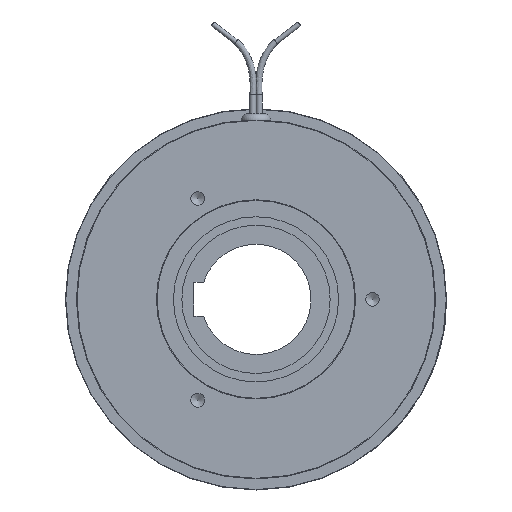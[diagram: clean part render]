
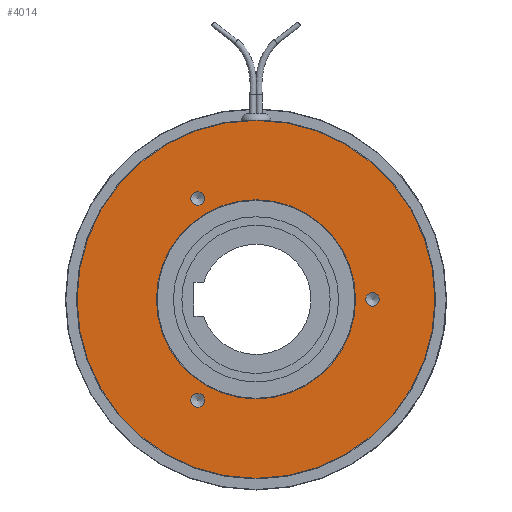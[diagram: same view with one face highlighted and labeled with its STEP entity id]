
A CAD part, left-side view. The second image highlights one B-rep face of the part: STEP entity #4014.
In plain terms, the highlighted planar face has unit normal (-1, 0, 0).
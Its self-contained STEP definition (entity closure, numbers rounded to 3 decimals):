
#368=FACE_BOUND('',#1158,.T.);
#369=FACE_BOUND('',#1159,.T.);
#370=FACE_BOUND('',#1160,.T.);
#371=FACE_BOUND('',#1161,.T.);
#561=CIRCLE('',#4390,42.25);
#562=CIRCLE('',#4391,42.25);
#563=CIRCLE('',#4393,23.5);
#566=CIRCLE('',#4396,23.5);
#567=CIRCLE('',#4398,42.25);
#568=CIRCLE('',#4399,1.621);
#569=CIRCLE('',#4400,1.621);
#570=CIRCLE('',#4401,1.621);
#571=CIRCLE('',#4402,1.621);
#572=CIRCLE('',#4403,1.621);
#573=CIRCLE('',#4404,1.621);
#912=FACE_OUTER_BOUND('',#1157,.T.);
#1157=EDGE_LOOP('',(#3146,#3147,#3148));
#1158=EDGE_LOOP('',(#3149,#3150));
#1159=EDGE_LOOP('',(#3151,#3152));
#1160=EDGE_LOOP('',(#3153,#3154));
#1161=EDGE_LOOP('',(#3155,#3156));
#1831=VERTEX_POINT('',#6822);
#1832=VERTEX_POINT('',#6824);
#1833=VERTEX_POINT('',#6826);
#1837=VERTEX_POINT('',#6853);
#1838=VERTEX_POINT('',#6854);
#1841=VERTEX_POINT('',#6864);
#1842=VERTEX_POINT('',#6865);
#1843=VERTEX_POINT('',#6868);
#1844=VERTEX_POINT('',#6869);
#1845=VERTEX_POINT('',#6872);
#1846=VERTEX_POINT('',#6873);
#2322=EDGE_CURVE('',#1832,#1831,#561,.T.);
#2323=EDGE_CURVE('',#1833,#1832,#562,.T.);
#2328=EDGE_CURVE('',#1837,#1838,#563,.T.);
#2332=EDGE_CURVE('',#1838,#1837,#566,.T.);
#2333=EDGE_CURVE('',#1831,#1833,#567,.T.);
#2334=EDGE_CURVE('',#1841,#1842,#568,.T.);
#2335=EDGE_CURVE('',#1842,#1841,#569,.T.);
#2336=EDGE_CURVE('',#1843,#1844,#570,.T.);
#2337=EDGE_CURVE('',#1844,#1843,#571,.T.);
#2338=EDGE_CURVE('',#1845,#1846,#572,.T.);
#2339=EDGE_CURVE('',#1846,#1845,#573,.T.);
#3146=ORIENTED_EDGE('',*,*,#2322,.T.);
#3147=ORIENTED_EDGE('',*,*,#2333,.T.);
#3148=ORIENTED_EDGE('',*,*,#2323,.T.);
#3149=ORIENTED_EDGE('',*,*,#2334,.T.);
#3150=ORIENTED_EDGE('',*,*,#2335,.T.);
#3151=ORIENTED_EDGE('',*,*,#2336,.T.);
#3152=ORIENTED_EDGE('',*,*,#2337,.T.);
#3153=ORIENTED_EDGE('',*,*,#2338,.T.);
#3154=ORIENTED_EDGE('',*,*,#2339,.T.);
#3155=ORIENTED_EDGE('',*,*,#2328,.F.);
#3156=ORIENTED_EDGE('',*,*,#2332,.F.);
#3899=PLANE('',#4397);
#4014=ADVANCED_FACE('',(#912,#368,#369,#370,#371),#3899,.T.);
#4390=AXIS2_PLACEMENT_3D('',#6825,#5313,#5314);
#4391=AXIS2_PLACEMENT_3D('',#6827,#5315,#5316);
#4393=AXIS2_PLACEMENT_3D('',#6855,#5322,#5323);
#4396=AXIS2_PLACEMENT_3D('',#6861,#5329,#5330);
#4397=AXIS2_PLACEMENT_3D('',#6862,#5331,#5332);
#4398=AXIS2_PLACEMENT_3D('',#6863,#5333,#5334);
#4399=AXIS2_PLACEMENT_3D('',#6866,#5335,#5336);
#4400=AXIS2_PLACEMENT_3D('',#6867,#5337,#5338);
#4401=AXIS2_PLACEMENT_3D('',#6870,#5339,#5340);
#4402=AXIS2_PLACEMENT_3D('',#6871,#5341,#5342);
#4403=AXIS2_PLACEMENT_3D('',#6874,#5343,#5344);
#4404=AXIS2_PLACEMENT_3D('',#6875,#5345,#5346);
#5313=DIRECTION('center_axis',(-1.,0.,0.));
#5314=DIRECTION('ref_axis',(0.,1.,0.));
#5315=DIRECTION('center_axis',(-1.,0.,0.));
#5316=DIRECTION('ref_axis',(0.,1.,0.));
#5322=DIRECTION('center_axis',(-1.,0.,0.));
#5323=DIRECTION('ref_axis',(0.,1.,0.));
#5329=DIRECTION('center_axis',(-1.,0.,0.));
#5330=DIRECTION('ref_axis',(0.,1.,0.));
#5331=DIRECTION('center_axis',(-1.,0.,0.));
#5332=DIRECTION('ref_axis',(0.,0.,1.));
#5333=DIRECTION('center_axis',(-1.,0.,0.));
#5334=DIRECTION('ref_axis',(0.,1.,0.));
#5335=DIRECTION('center_axis',(1.,0.,0.));
#5336=DIRECTION('ref_axis',(0.,0.,1.));
#5337=DIRECTION('center_axis',(1.,0.,0.));
#5338=DIRECTION('ref_axis',(0.,0.,1.));
#5339=DIRECTION('center_axis',(1.,0.,0.));
#5340=DIRECTION('ref_axis',(0.,0.,1.));
#5341=DIRECTION('center_axis',(1.,0.,0.));
#5342=DIRECTION('ref_axis',(0.,0.,1.));
#5343=DIRECTION('center_axis',(1.,0.,0.));
#5344=DIRECTION('ref_axis',(0.,0.,1.));
#5345=DIRECTION('center_axis',(1.,0.,0.));
#5346=DIRECTION('ref_axis',(0.,0.,1.));
#6822=CARTESIAN_POINT('',(-14.05,-42.25,0.));
#6824=CARTESIAN_POINT('',(-14.05,42.25,0.));
#6825=CARTESIAN_POINT('Origin',(-14.05,0.,0.));
#6826=CARTESIAN_POINT('',(-14.05,0.,42.25));
#6827=CARTESIAN_POINT('Origin',(-14.05,0.,0.));
#6853=CARTESIAN_POINT('',(-14.05,23.5,0.));
#6854=CARTESIAN_POINT('',(-14.05,-23.5,0.));
#6855=CARTESIAN_POINT('Origin',(-14.05,0.,0.));
#6861=CARTESIAN_POINT('Origin',(-14.05,0.,0.));
#6862=CARTESIAN_POINT('Origin',(-14.05,32.875,0.));
#6863=CARTESIAN_POINT('Origin',(-14.05,0.,0.));
#6864=CARTESIAN_POINT('',(-14.05,13.75,25.437));
#6865=CARTESIAN_POINT('',(-14.05,13.75,22.195));
#6866=CARTESIAN_POINT('Origin',(-14.05,13.75,23.816));
#6867=CARTESIAN_POINT('Origin',(-14.05,13.75,23.816));
#6868=CARTESIAN_POINT('',(-14.05,-27.5,1.621));
#6869=CARTESIAN_POINT('',(-14.05,-27.5,-1.621));
#6870=CARTESIAN_POINT('Origin',(-14.05,-27.5,0.));
#6871=CARTESIAN_POINT('Origin',(-14.05,-27.5,0.));
#6872=CARTESIAN_POINT('',(-14.05,13.75,-22.195));
#6873=CARTESIAN_POINT('',(-14.05,13.75,-25.437));
#6874=CARTESIAN_POINT('Origin',(-14.05,13.75,-23.816));
#6875=CARTESIAN_POINT('Origin',(-14.05,13.75,-23.816));
